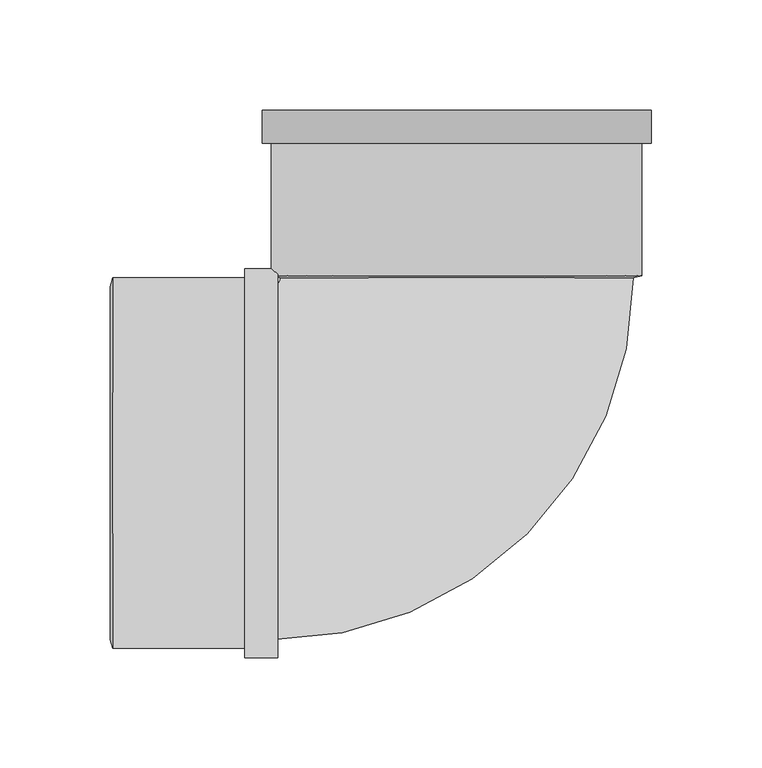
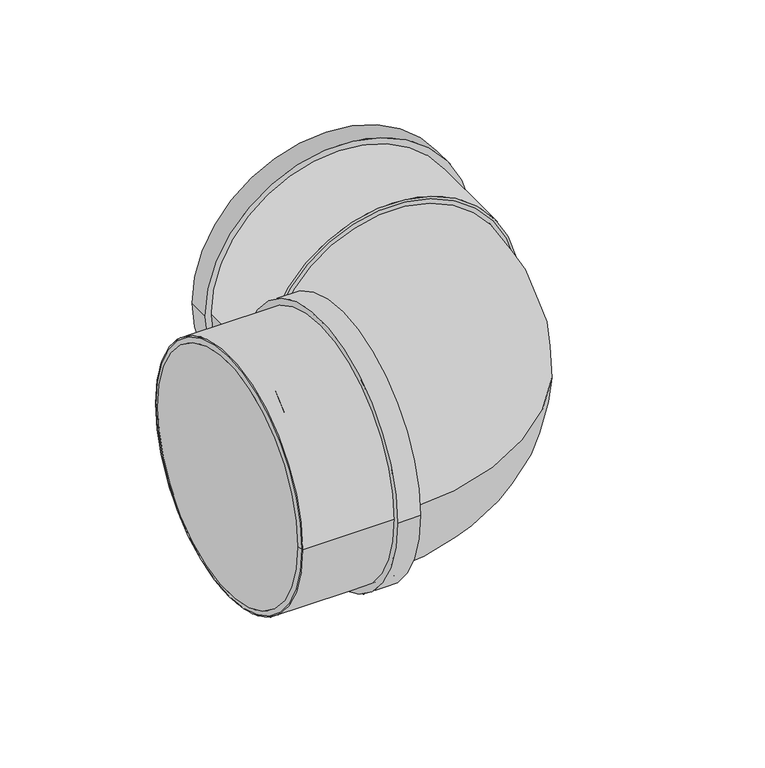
"""IFC4 building model written with IfcOpenShell, lengths in millimetres: pipe fitting geometry, Superdrain HT Bend Composite 2x45 : Superdrain HT Bend Composite 2x45."""

from ifc_helpers import new_model, si_unit, point, frame, origin, origin_2d, place, context, project, spatial, polyline, circle_curve, ellipse_curve, trimmed, segment, composite_curve, outline, extrude, source, transform, mapped, element, save
from ifc_brep_helpers import plane_surface, revolved_surface, advanced_brep


def pipe_fitting_f454dd66(model_context):
    return source(origin(), model_context, "Body", "SolidModel", [
        extrude(outline(composite_curve([segment(trimmed(circle_curve(origin_2d(), 84.0), [point((84.0, 0.0))], [point((-84.0, 0.0))], False, "CARTESIAN"), True, "CONTINUOUS"), segment(trimmed(circle_curve(origin_2d(), 84.0), [point((-84.0, 0.0))], [point((84.0, 0.0))], False, "CARTESIAN"), True, "CONTINUOUS")], self_intersect=False), holes=[composite_curve([segment(trimmed(circle_curve(origin_2d(), 80.0), [point((80.0, 0.0))], [point((-80.0, 0.0))], True, "CARTESIAN"), True, "CONTINUOUS"), segment(trimmed(circle_curve(origin_2d(), 80.0), [point((-80.0, 0.0))], [point((80.0, 0.0))], True, "CARTESIAN"), True, "CONTINUOUS")], self_intersect=False)]), frame((-156.0, 0.0, 0.0), z_axis=(1.0, 0.0, 0.0), x_axis=(0.0, 1.0, 0.0)), (0.0, 0.0, 1.0), 75.0),
        extrude(outline(composite_curve([segment(trimmed(circle_curve(origin_2d(), 88.2), [point((88.2, 0.0))], [point((-88.2, 0.0))], False, "CARTESIAN"), True, "CONTINUOUS"), segment(trimmed(circle_curve(origin_2d(), 88.2), [point((-88.2, 0.0))], [point((88.2, 0.0))], False, "CARTESIAN"), True, "CONTINUOUS")], self_intersect=False), holes=[composite_curve([segment(trimmed(circle_curve(origin_2d(), 80.0), [point((80.0, 0.0))], [point((-80.0, 0.0))], True, "CARTESIAN"), True, "CONTINUOUS"), segment(trimmed(circle_curve(origin_2d(), 80.0), [point((-80.0, 0.0))], [point((80.0, 0.0))], True, "CARTESIAN"), True, "CONTINUOUS")], self_intersect=False)]), frame((-96.0, 0.0, 0.0), z_axis=(1.0, 0.0, 0.0), x_axis=(0.0, 1.0, 0.0)), (0.0, 0.0, 1.0), 15.0),
        advanced_brep(
        [(-157.0, 80.0, 0.0), (-157.0, -80.0, 0.0), (-156.0, 84.0, 0.0), (-156.0, -84.0, 0.0)],
        [
            (0, 1, circle_curve(frame((-157.0, 0.0, 0.0), z_axis=(-1.0, 0.0, 0.0), x_axis=(0.0, 1.0000000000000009, 0.0)), 80.0)),
            (1, 0, circle_curve(frame((-157.0, 0.0, 0.0), z_axis=(-1.0, 0.0, 0.0), x_axis=(0.0, -1.0000000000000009, 0.0)), 80.0)),
            (2, 3, circle_curve(frame((-156.0, 0.0, 0.0), z_axis=(1.0, 0.0, 0.0), x_axis=(0.0, -1.0000000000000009, 0.0)), 84.0)),
            (3, 2, circle_curve(frame((-156.0, 0.0, 0.0), z_axis=(1.0, 0.0, 0.0), x_axis=(0.0, 1.0000000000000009, 0.0)), 84.0)),
            (3, 1),
            (0, 2),
        ],
        [
            plane_surface(frame((-157.0, 0.0, 0.0), z_axis=(-1.0, 0.0, 0.0), x_axis=(0.0, 0.0, -1.0))),
            plane_surface(frame((-156.0, 0.0, 0.0), z_axis=(1.0, 0.0, 0.0), x_axis=(0.0, 0.0, -1.0))),
            revolved_surface(polyline([(-157.0, 79.99999999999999, 0.0), (-156.0, 84.0, 0.0)]), (-177.0, 0.0, 0.0), (1.0000000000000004, 0.0, 0.0)),
            revolved_surface(polyline([(-157.0, -79.99999999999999, 0.0), (-156.0, -84.0, 0.0)]), (-177.0, 0.0, 0.0), (1.0000000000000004, 0.0, 0.0)),
        ],
        [
            (0, [[1, 2]]),
            (1, [[3, 4]]),
            (2, [[-4, 5, -1, 6]]),
            (3, [[-3, -6, -2, -5]]),
        ],
    ),
        advanced_brep(
        [(80.0, 83.9, 0.0), (-80.0, 83.9, 0.0), (-83.9, -80.0, 0.0), (-83.9, 80.0, 0.0)],
        [
            (0, 1, circle_curve(frame((0.0, 83.9, 0.0), z_axis=(0.0, 1.0, 0.0), x_axis=(-1.0, 0.0, 0.0)), 80.0)),
            (1, 0, circle_curve(frame((0.0, 83.9, 0.0), z_axis=(0.0, 1.0, 0.0), x_axis=(-1.0, 0.0, 0.0)), 80.0)),
            (2, 3, circle_curve(frame((-83.9, 0.0, 0.0), z_axis=(-1.0, 0.0, 0.0), x_axis=(0.0, 1.0, 0.0)), 80.0)),
            (3, 2, circle_curve(frame((-83.9, 0.0, 0.0), z_axis=(-1.0, 0.0, 0.0), x_axis=(0.0, 1.0, 0.0)), 80.0)),
            (3, 1, circle_curve(frame((-83.9, 83.9, 0.0), z_axis=(0.0, 0.0, 1.0), x_axis=(1.0, 0.0, 0.0)), 3.9)),
            (0, 2, circle_curve(frame((-83.9, 83.9, 0.0), z_axis=(0.0, 0.0, -1.0), x_axis=(1.0, 0.0, 0.0)), 163.9)),
        ],
        [
            plane_surface(frame((0.0, 83.9, 0.0), z_axis=(0.0, 1.0, 0.0), x_axis=(0.0, 0.0, -1.0))),
            plane_surface(frame((-83.9, 0.0, 0.0), z_axis=(-1.0, 0.0, 0.0), x_axis=(0.0, 0.0, -1.0))),
            revolved_surface(trimmed(ellipse_curve(frame((0.0, 83.9, 0.0), z_axis=(0.0, -1.0, 0.0), x_axis=(-1.0, 0.0, 0.0)), 80.0, 80.0), [point((-80.0, 83.9, 0.0))], [point((80.0, 83.9, 0.0))], True, "CARTESIAN"), (-83.9, 83.9, 0.0), (0.0, 0.0, 1.0)),
            revolved_surface(trimmed(ellipse_curve(frame((0.0, 83.9, 0.0), z_axis=(0.0, -1.0, 0.0), x_axis=(-1.0, 0.0, 0.0)), 80.0, 80.0), [point((80.0, 83.9, 0.0))], [point((-80.0, 83.9, 0.0))], True, "CARTESIAN"), (-83.9, 83.9, 0.0), (0.0, 0.0, 1.0)),
        ],
        [
            (0, [[1, 2]]),
            (1, [[3, 4]]),
            (2, [[-4, 5, -1, 6]]),
            (3, [[-3, -6, -2, -5]]),
        ],
    ),
        extrude(outline(composite_curve([segment(trimmed(circle_curve(origin_2d(), 84.0), [point((0.0, 84.0))], [point((0.0, -84.0))], False, "CARTESIAN"), True, "CONTINUOUS"), segment(trimmed(circle_curve(origin_2d(), 84.0), [point((0.0, -84.0))], [point((0.0, 84.0))], False, "CARTESIAN"), True, "CONTINUOUS")], self_intersect=False), holes=[composite_curve([segment(trimmed(circle_curve(origin_2d(), 80.0), [point((0.0, 80.0))], [point((0.0, -80.0))], True, "CARTESIAN"), True, "CONTINUOUS"), segment(trimmed(circle_curve(origin_2d(), 80.0), [point((0.0, -80.0))], [point((0.0, 80.0))], True, "CARTESIAN"), True, "CONTINUOUS")], self_intersect=False)]), frame((0.0, 84.9, 0.0), z_axis=(0.0, 1.0, 0.0), x_axis=(0.0, 0.0, 1.0)), (0.0, 0.0, 1.0), 75.0),
        extrude(outline(composite_curve([segment(trimmed(circle_curve(origin_2d(), 88.2), [point((0.0, -88.2))], [point((0.0, 88.2))], False, "CARTESIAN"), True, "CONTINUOUS"), segment(trimmed(circle_curve(origin_2d(), 88.2), [point((0.0, 88.2))], [point((0.0, -88.2))], False, "CARTESIAN"), True, "CONTINUOUS")], self_intersect=False), holes=[composite_curve([segment(trimmed(circle_curve(origin_2d(), 80.0), [point((0.0, -80.0))], [point((0.0, 80.0))], True, "CARTESIAN"), True, "CONTINUOUS"), segment(trimmed(circle_curve(origin_2d(), 80.0), [point((0.0, 80.0))], [point((0.0, -80.0))], True, "CARTESIAN"), True, "CONTINUOUS")], self_intersect=False)]), frame((0.0, 144.9, 0.0), z_axis=(0.0, 1.0, 0.0), x_axis=(0.0, 0.0, 1.0)), (0.0, 0.0, 1.0), 15.0),
        advanced_brep(
        [(84.0, 84.9, 0.0), (-84.0, 84.9, 0.0), (80.0, 83.9, 0.0), (-80.0, 83.9, 0.0)],
        [
            (0, 1, circle_curve(frame((0.0, 84.9, 0.0), z_axis=(0.0, 1.0, 0.0), x_axis=(1.0, 0.0, 0.0)), 84.0)),
            (1, 0, circle_curve(frame((0.0, 84.9, 0.0), z_axis=(0.0, 1.0, 0.0), x_axis=(-1.0, 0.0, 0.0)), 84.0)),
            (2, 3, circle_curve(frame((0.0, 83.9, 0.0), z_axis=(0.0, -1.0, 0.0), x_axis=(-1.0, 0.0, 0.0)), 80.0)),
            (3, 2, circle_curve(frame((0.0, 83.9, 0.0), z_axis=(0.0, -1.0, 0.0), x_axis=(1.0, 0.0, 0.0)), 80.0)),
            (3, 1),
            (0, 2),
        ],
        [
            plane_surface(frame((0.0, 84.9, 0.0), z_axis=(0.0, 1.0, 0.0), x_axis=(0.0, 0.0, -1.0))),
            plane_surface(frame((0.0, 83.9, 0.0), z_axis=(0.0, -1.0, 0.0), x_axis=(0.0, 0.0, -1.0))),
            revolved_surface(polyline([(-80.0, 83.9, 0.0), (-84.0, 84.9, 0.0)]), (0.0, 63.9, 0.0), (0.0, 1.0, 0.0)),
            revolved_surface(polyline([(80.0, 83.9, 0.0), (84.0, 84.9, 0.0)]), (0.0, 63.9, 0.0), (0.0, 1.0, 0.0)),
        ],
        [
            (0, [[1, 2]]),
            (1, [[3, 4]]),
            (2, [[-4, 5, -1, 6]]),
            (3, [[-3, -6, -2, -5]]),
        ],
    ),
        extrude(outline(composite_curve([segment(trimmed(circle_curve(origin_2d(), 80.0), [point((-80.0, 0.0))], [point((80.0, 0.0))], False, "CARTESIAN"), True, "CONTINUOUS"), segment(trimmed(circle_curve(origin_2d(), 80.0), [point((80.0, 0.0))], [point((-80.0, 0.0))], False, "CARTESIAN"), True, "CONTINUOUS")], self_intersect=False)), frame((-156.0, 0.0, 0.0), z_axis=(1.0, 0.0, 0.0), x_axis=(0.0, 1.0, 0.0)), (0.0, 0.0, 1.0), 72.1),
    ])


if __name__ == "__main__":
    model = new_model("IFC4")
    model_context = context("Model", 3, world=origin())
    ifc_project = project(units=[si_unit("LENGTHUNIT", "METRE", prefix="MILLI")], contexts=[model_context])
    site = spatial("IfcSite", under=ifc_project)
    building = spatial("IfcBuilding", under=site)
    placement = place(None, origin())
    pipe_fitting_shape = pipe_fitting_f454dd66(model_context)
    element("IfcPipeFitting", 1, ObjectType="Superdrain HT Bend Composite 2x45 : Superdrain HT Bend Composite 2x45", at=placement, inside=building, context=model_context, shape_type="MappedRepresentation", body=[
        mapped(pipe_fitting_shape, transform((0.0, 0.0, 0.0), x_axis=(1.0, 0.0, 0.0), y_axis=(0.0, 1.0, 0.0), z_axis=(0.0, 0.0, 1.0))),
    ])
    save(model, "model.ifc")
